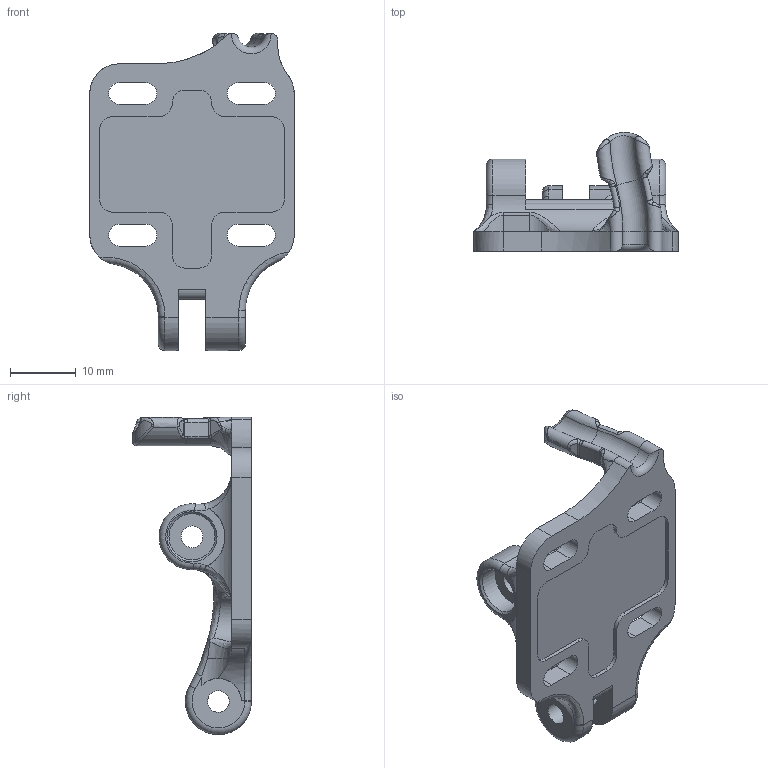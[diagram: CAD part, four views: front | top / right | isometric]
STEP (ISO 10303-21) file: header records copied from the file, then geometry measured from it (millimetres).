
FILE_DESCRIPTION(/* description */ (''),/* implementation_level */ '2;1');
FILE_NAME(/* name */ '/Users/jakeallen/Dropbox/3D Printer Fan Duct Designs/1.) Artillery Sidewinder X1/3D Models/5015 Double Ducts/VOLCANO/Volcano ALL Step Files/RH Fan Bracket.step',/* time_stamp */ '2021-03-05T21:09:10-05:00',/* author */ (''),/* organization */ (''),/* preprocessor_version */ 'ST-DEVELOPER v18.1',/* originating_system */ 'Autodesk Translation Framework v9.10.0.1330',/* authorisation */ '');
FILE_SCHEMA (('AUTOMOTIVE_DESIGN { 1 0 10303 214 3 1 1 }'));
Length unit declared in the file: millimetre
Products named in the file (1): RH Fan Bracket
Bounding box: 31 x 18 x 48.1 mm (x, y, z)
Volume: 5783.1 mm3; surface area: 4232.3 mm2
Topology: 1 solids, 1 shells, 259 faces, 692 edges, 433 vertices
Faces by surface type: cylinder 83, bspline 75, plane 74, torus 26, cone 1
Full cylindrical faces by diameter (mm): 3.3 x4, 7 x1
Entity records: 17618 total; most frequent: CARTESIAN_POINT 11577, ORIENTED_EDGE 1380, DIRECTION 1078, EDGE_CURVE 690, VERTEX_POINT 433, AXIS2_PLACEMENT_3D 420, EDGE_LOOP 275, FACE_OUTER_BOUND 259
